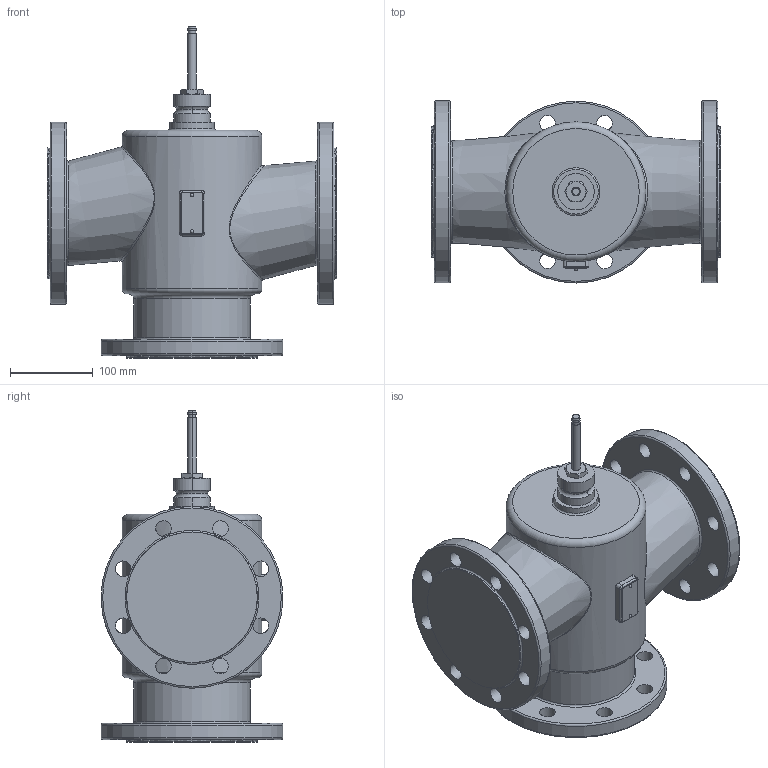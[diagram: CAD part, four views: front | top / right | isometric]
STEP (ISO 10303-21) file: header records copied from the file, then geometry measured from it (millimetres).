
FILE_DESCRIPTION(/* description */ (''),/* implementation_level */ '2;1');
FILE_NAME(/* name */ 'RAS_023464_00.stp',/* time_stamp */ '2013-01-10T08:46:16+01:00',/* author */ (''),/* organization */ (''),/* preprocessor_version */ 'ST-DEVELOPER v11',/* originating_system */ 'SIEMENS UGS NX 6.0',/* authorisation */ '');
FILE_SCHEMA (('AUTOMOTIVE_DESIGN { 1 0 10303 214 1 1 1 1 }'));
Length unit declared in the file: millimetre
Products named in the file (1): RontE95Cebl4
Bounding box: 350 x 220 x 401.5 mm (x, y, z)
Volume: 9738062.3 mm3; surface area: 444123.4 mm2
Topology: 1 solids, 2 shells, 158 faces, 434 edges, 270 vertices
Faces by surface type: cylinder 57, plane 35, torus 32, bspline 24, cone 8, sphere 2
Full cylindrical faces by diameter (mm): 19 x24, 54 x1, 141 x1, 158 x3, 169 x1, 220 x3
Entity records: 6090 total; most frequent: CARTESIAN_POINT 2463, DIRECTION 794, ORIENTED_EDGE 682, AXIS2_PLACEMENT_3D 368, EDGE_CURVE 341, EDGE_LOOP 252, VERTEX_POINT 233, CIRCLE 231
